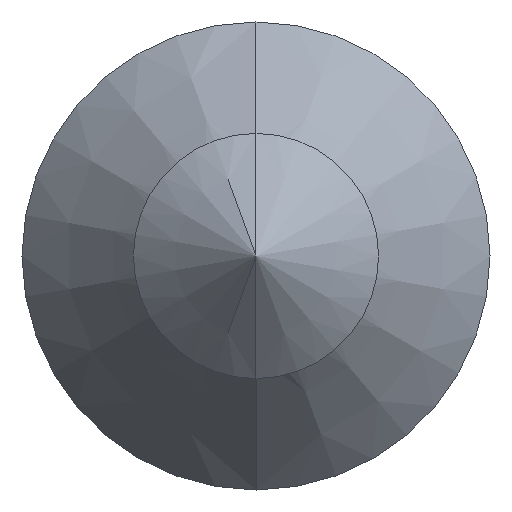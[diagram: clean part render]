
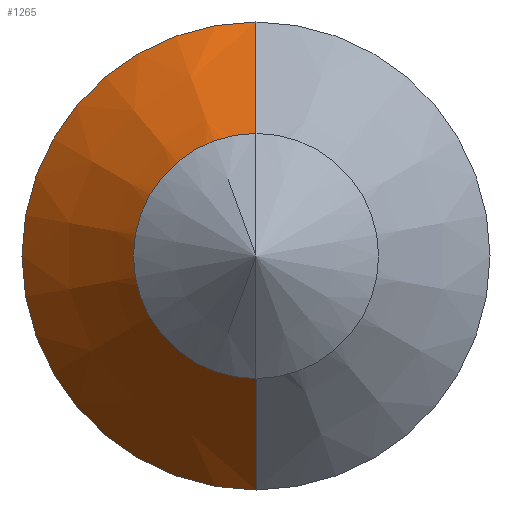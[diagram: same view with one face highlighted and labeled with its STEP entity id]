
A CAD part, left-side view. The second image highlights one B-rep face of the part: STEP entity #1265.
In plain terms, the highlighted conical face has half-angle 40 degrees and reference radius 2.1 mm.
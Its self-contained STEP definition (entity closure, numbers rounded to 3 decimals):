
#32 = CARTESIAN_POINT ( 'NONE',  ( 3.42, 0., 0. ) ) ;
#65 = VECTOR ( 'NONE', #1594, 1000. ) ;
#262 = DIRECTION ( 'NONE',  ( 0.766, 0., -0.643 ) ) ;
#268 = VERTEX_POINT ( 'NONE', #1684 ) ;
#382 = AXIS2_PLACEMENT_3D ( 'NONE', #32, #2130, #722 ) ;
#411 = VECTOR ( 'NONE', #262, 1000. ) ;
#590 = EDGE_CURVE ( 'NONE', #1490, #268, #1864, .T. ) ;
#649 = FACE_OUTER_BOUND ( 'NONE', #729, .T. ) ;
#696 = ORIENTED_EDGE ( 'NONE', *, *, #2046, .T. ) ;
#703 = DIRECTION ( 'NONE',  ( 1., 0., 0. ) ) ;
#722 = DIRECTION ( 'NONE',  ( 0., 0., -1. ) ) ;
#729 = EDGE_LOOP ( 'NONE', ( #696, #1272, #1441, #1106 ) ) ;
#752 = CARTESIAN_POINT ( 'NONE',  ( 3.42, 0., 0. ) ) ;
#754 = AXIS2_PLACEMENT_3D ( 'NONE', #1769, #703, #1943 ) ;
#922 = DIRECTION ( 'NONE',  ( 0., 0., -1. ) ) ;
#951 = CARTESIAN_POINT ( 'NONE',  ( 3.42, 0., -2.1 ) ) ;
#1106 = ORIENTED_EDGE ( 'NONE', *, *, #590, .F. ) ;
#1133 = CIRCLE ( 'NONE', #754, 0.9 ) ;
#1265 = ADVANCED_FACE ( 'NONE', ( #649 ), #1428, .T. ) ;
#1272 = ORIENTED_EDGE ( 'NONE', *, *, #1726, .T. ) ;
#1428 = CONICAL_SURFACE ( 'NONE', #382, 2.1, 0.698 ) ;
#1441 = ORIENTED_EDGE ( 'NONE', *, *, #2134, .F. ) ;
#1468 = VERTEX_POINT ( 'NONE', #2087 ) ;
#1490 = VERTEX_POINT ( 'NONE', #1571 ) ;
#1571 = CARTESIAN_POINT ( 'NONE',  ( 1.99, 0., -0.9 ) ) ;
#1583 = AXIS2_PLACEMENT_3D ( 'NONE', #752, #1981, #922 ) ;
#1594 = DIRECTION ( 'NONE',  ( 0.766, 0., 0.643 ) ) ;
#1684 = CARTESIAN_POINT ( 'NONE',  ( 3.42, 0., -2.1 ) ) ;
#1726 = EDGE_CURVE ( 'NONE', #1917, #1468, #1865, .T. ) ;
#1769 = CARTESIAN_POINT ( 'NONE',  ( 1.99, 0., 0. ) ) ;
#1864 = LINE ( 'NONE', #951, #411 ) ;
#1865 = LINE ( 'NONE', #2181, #65 ) ;
#1900 = CARTESIAN_POINT ( 'NONE',  ( 1.99, 0., 0.9 ) ) ;
#1910 = CIRCLE ( 'NONE', #1583, 2.1 ) ;
#1917 = VERTEX_POINT ( 'NONE', #1900 ) ;
#1943 = DIRECTION ( 'NONE',  ( 0., 0., -1. ) ) ;
#1981 = DIRECTION ( 'NONE',  ( 1., 0., 0. ) ) ;
#2046 = EDGE_CURVE ( 'NONE', #1490, #1917, #1133, .T. ) ;
#2087 = CARTESIAN_POINT ( 'NONE',  ( 3.42, 0., 2.1 ) ) ;
#2130 = DIRECTION ( 'NONE',  ( 1., 0., 0. ) ) ;
#2134 = EDGE_CURVE ( 'NONE', #268, #1468, #1910, .T. ) ;
#2181 = CARTESIAN_POINT ( 'NONE',  ( 3.42, 0., 2.1 ) ) ;
